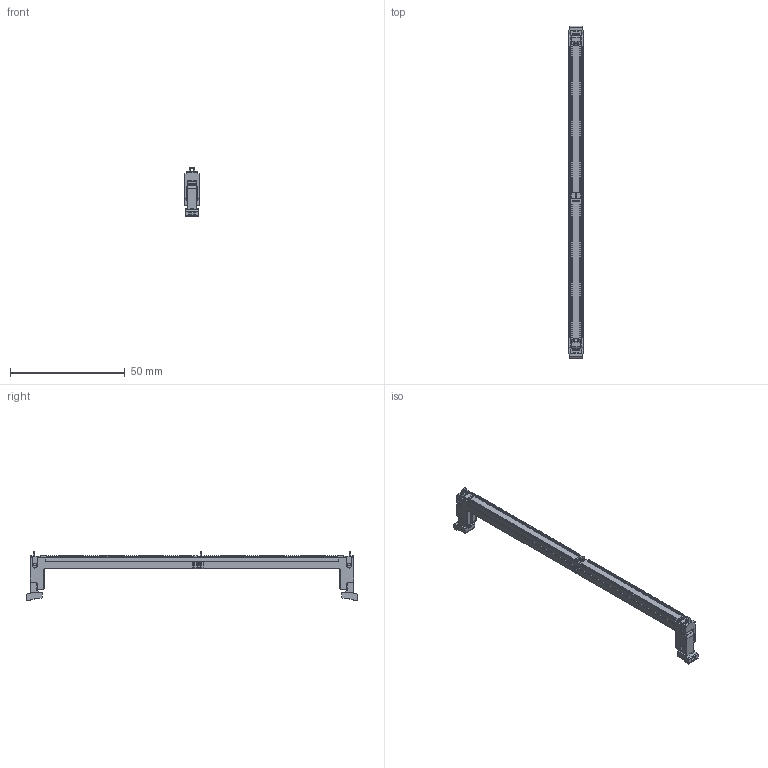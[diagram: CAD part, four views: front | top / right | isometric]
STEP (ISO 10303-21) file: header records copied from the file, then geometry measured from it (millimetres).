
FILE_DESCRIPTION((''),'2;1');
FILE_NAME('DDR5_SMT_CONN','2026-07-10T17:10:55',('12824382'),(''),'CREO PARAMETRIC BY PTC INC, 2019471','CREO PARAMETRIC BY PTC INC, 2019471','');
FILE_SCHEMA(('CONFIG_CONTROL_DESIGN'));
Products named in the file (1): DDR5_SMT_CONN
Bounding box: 6.1 x 144.6 x 21.57 mm (x, y, z)
Volume: 4074.7 mm3; surface area: 6293.7 mm2
Topology: 1 solids, 1 shells, 6573 faces, 17223 edges, 10941 vertices
Faces by surface type: plane 4754, cylinder 1645, bspline 150, torus 20, sphere 4
Entity records: 206258 total; most frequent: CARTESIAN_POINT 43498, ORIENTED_EDGE 34430, DIRECTION 32681, EDGE_CURVE 17215, VECTOR 11651, LINE 11651, VERTEX_POINT 10941, AXIS2_PLACEMENT_3D 10515
